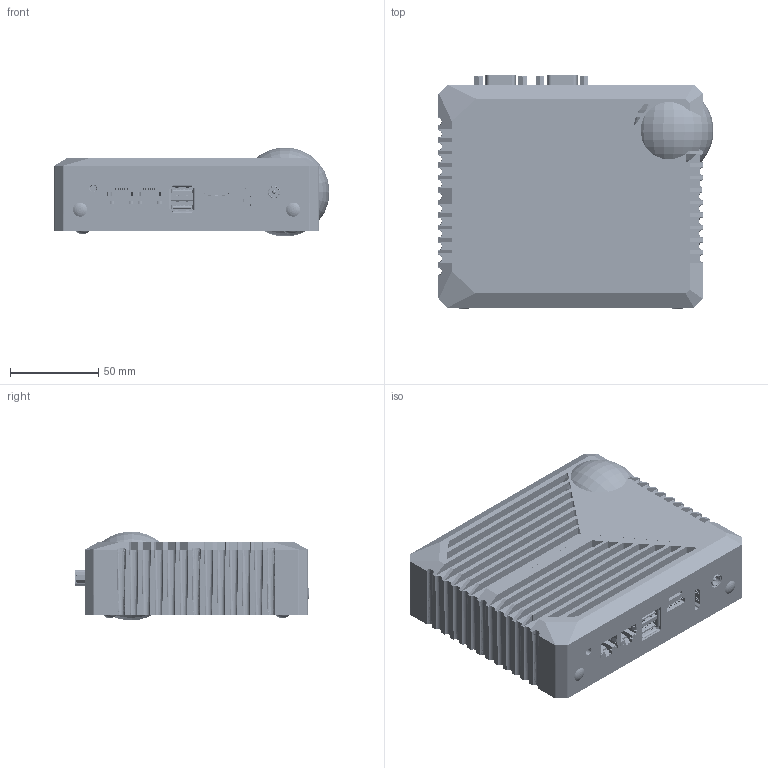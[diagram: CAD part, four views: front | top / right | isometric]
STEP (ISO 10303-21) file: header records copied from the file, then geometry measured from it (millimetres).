
FILE_DESCRIPTION(/* description */ ('Unknown'),/* implementation_level */ '2;1');
FILE_NAME(/* name */ 'eNX interN100',/* time_stamp */ '2024-09-11T14:45:45+02:00',/* author */ ('Unknown'),/* organization */ ('Unknown'),/* preprocessor_version */ 'ST-DEVELOPER v19.4',/* originating_system */ 'Solid Edge',/* authorisation */ 'Unknown');
FILE_SCHEMA (('AUTOMOTIVE_DESIGN {1 0 10303 214 3 1 1}'));
Products named in the file (31): eNX interN100; eNX interN100 - 2; eNX interN100 - 3; eNX interN100 - 4; eNX interN100 - 5; MIC black; LAN; USB_4^Usb_Assembly; USB_3^Usb_Assembly; USB_2^Usb_Assembly; USB_1^Usb_Assembly; chapaUSB doble; DC jack; Adapter Housing; Screw Terminal; Housing; Terminal; 92000A013; Ground Jack; Power Jack; HDMI; Connector; Mold; Shell; Pins; Overmold; boton WIFI negro; COM - 25 mm ; boton ON-OFF 8mm; eNX i5-1235U - 4
Assembly tree (70 placements, depth 4):
  eNX interN100
    eNX interN100
    eNX interN100 - 2
    eNX interN100 - 3
    eNX interN100 - 4
    eNX interN100 - 5
    MIC black
    LAN  x2
    USB_4^Usb_Assembly  x3
    USB_3^Usb_Assembly  x3
    USB_2^Usb_Assembly  x24
    USB_1^Usb_Assembly  x3
    chapaUSB doble  x3
    DC jack
      Adapter Housing
      Screw Terminal
        Housing
        Terminal  x2
        92000A013  x2
      Ground Jack
      Power Jack
    HDMI  x2
      Connector
        Mold
        Shell
        Pins
      Overmold
    boton WIFI negro  x2
    COM - 25 mm   x2
    boton ON-OFF 8mm
    eNX i5-1235U - 4  x4
Bounding box: 156.13 x 133.3 x 50.34 mm (x, y, z)
Volume: 283468 mm3; surface area: 183464.8 mm2
Topology: 109 solids, 109 shells, 11955 faces, 30474 edges, 18644 vertices
Faces by surface type: plane 4751, cylinder 4432, torus 2024, bspline 695, sphere 34, cone 19
Full cylindrical faces by diameter (mm): 1 x18, 1.48 x28, 1.623 x2, 2 x27, 2.16 x4, 2.25 x2, 2.4 x2, 3 x6, 3.947 x1, 4 x4, 5.25 x2, 5.7 x1, 6.93 x2, 7 x3, 8 x2, 8.5 x1, 10 x1
Entity records: 139815 total; most frequent: CARTESIAN_POINT 46670, ORIENTED_EDGE 18234, DIRECTION 16962, EDGE_CURVE 9117, VERTEX_POINT 5880, LINE 5738, VECTOR 5738, AXIS2_PLACEMENT_3D 5612
